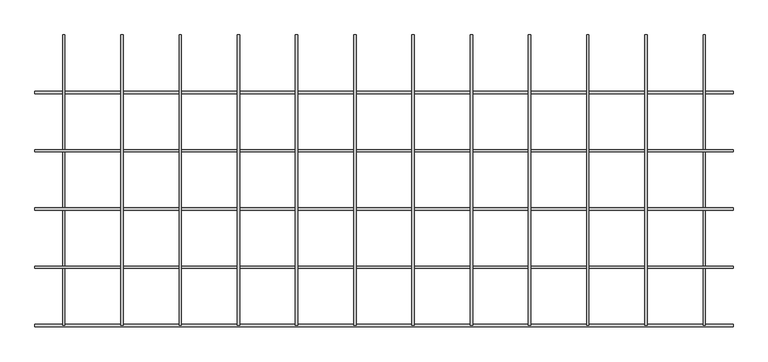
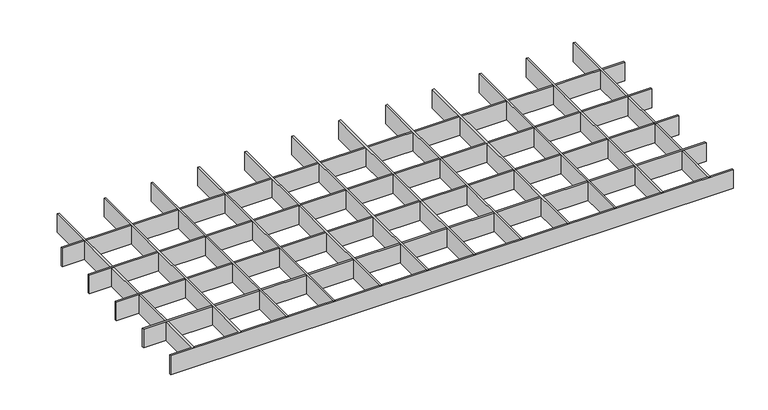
"""IFC4 building model written with IfcOpenShell, lengths in millimetres: proxy geometry, durlum_GEO_panel : durlum_GEO_4_width_cut."""

from ifc_helpers import new_model, si_unit, origin, origin_with_axes, place, context, project, spatial, polyline, outline, extrude, source, transform, mapped, element, save


def generic_models_b706f660(model_context):
    return source(origin(), model_context, "Body", "SweptSolid", [
        extrude(outline(polyline([(448.0, 249.5), (452.0, 249.5), (452.0, -249.5), (448.0, -249.5), (448.0, 249.5)])), origin_with_axes(), (0.0, 0.0, 1.0), 42.0),
        extrude(outline(polyline([(348.0, 249.5), (352.0, 249.5), (352.0, -249.5), (348.0, -249.5), (348.0, 249.5)])), origin_with_axes(), (0.0, 0.0, 1.0), 42.0),
        extrude(outline(polyline([(248.0, 249.5), (252.0, 249.5), (252.0, -249.5), (248.0, -249.5), (248.0, 249.5)])), origin_with_axes(), (0.0, 0.0, 1.0), 42.0),
        extrude(outline(polyline([(148.0, 249.5), (152.0, 249.5), (152.0, -249.5), (148.0, -249.5), (148.0, 249.5)])), origin_with_axes(), (0.0, 0.0, 1.0), 42.0),
        extrude(outline(polyline([(48.0, 249.5), (52.0, 249.5), (52.0, -249.5), (48.0, -249.5), (48.0, 249.5)])), origin_with_axes(), (0.0, 0.0, 1.0), 42.0),
        extrude(outline(polyline([(-52.0, 249.5), (-48.0, 249.5), (-48.0, -249.5), (-52.0, -249.5), (-52.0, 249.5)])), origin_with_axes(), (0.0, 0.0, 1.0), 42.0),
        extrude(outline(polyline([(-152.0, 249.5), (-148.0, 249.5), (-148.0, -249.5), (-152.0, -249.5), (-152.0, 249.5)])), origin_with_axes(), (0.0, 0.0, 1.0), 42.0),
        extrude(outline(polyline([(-252.0, 249.5), (-248.0, 249.5), (-248.0, -249.5), (-252.0, -249.5), (-252.0, 249.5)])), origin_with_axes(), (0.0, 0.0, 1.0), 42.0),
        extrude(outline(polyline([(-352.0, 249.5), (-348.0, 249.5), (-348.0, -249.5), (-352.0, -249.5), (-352.0, 249.5)])), origin_with_axes(), (0.0, 0.0, 1.0), 42.0),
        extrude(outline(polyline([(-452.0, 249.5), (-448.0, 249.5), (-448.0, -249.5), (-452.0, -249.5), (-452.0, 249.5)])), origin_with_axes(), (0.0, 0.0, 1.0), 42.0),
        extrude(outline(polyline([(599.5, -147.5), (599.5, -151.5), (-599.5, -151.5), (-599.5, -147.5), (599.5, -147.5)])), origin_with_axes(), (0.0, 0.0, 1.0), 42.0),
        extrude(outline(polyline([(599.5, -47.5), (599.5, -51.5), (-599.5, -51.5), (-599.5, -47.5), (599.5, -47.5)])), origin_with_axes(), (0.0, 0.0, 1.0), 42.0),
        extrude(outline(polyline([(599.5, 52.5), (599.5, 48.5), (-599.5, 48.5), (-599.5, 52.5), (599.5, 52.5)])), origin_with_axes(), (0.0, 0.0, 1.0), 42.0),
        extrude(outline(polyline([(548.0, 249.5), (552.0, 249.5), (552.0, -249.5), (548.0, -249.5), (548.0, 249.5)])), origin_with_axes(), (0.0, 0.0, 1.0), 42.0),
        extrude(outline(polyline([(-552.0, 249.5), (-548.0, 249.5), (-548.0, -249.5), (-552.0, -249.5), (-552.0, 249.5)])), origin_with_axes(), (0.0, 0.0, 1.0), 42.0),
        extrude(outline(polyline([(599.5, -247.5), (599.5, -251.5), (-599.5, -251.5), (-599.5, -247.5), (599.5, -247.5)])), origin_with_axes(), (0.0, 0.0, 1.0), 42.0),
        extrude(outline(polyline([(599.5, 152.5), (599.5, 148.5), (-599.5, 148.5), (-599.5, 152.5), (599.5, 152.5)])), origin_with_axes(), (0.0, 0.0, 1.0), 42.0),
    ])


if __name__ == "__main__":
    model = new_model("IFC4")
    model_context = context("Model", 3, world=origin())
    ifc_project = project(units=[si_unit("LENGTHUNIT", "METRE", prefix="MILLI")], contexts=[model_context])
    site = spatial("IfcSite", under=ifc_project)
    building = spatial("IfcBuilding", under=site)
    placement = place(None, origin())
    generic_models_shape = generic_models_b706f660(model_context)
    element("IfcBuildingElementProxy", 1, Name="durlum_GEO_panel : durlum_GEO_4_width_cut", ObjectType="durlum_GEO_panel : durlum_GEO_4_width_cut", at=placement, inside=building, context=model_context, shape_type="MappedRepresentation", body=[
        mapped(generic_models_shape, transform((0.0, 0.0, 0.0), x_axis=(1.0, 0.0, 0.0), y_axis=(0.0, 1.0, 0.0), z_axis=(0.0, 0.0, 1.0))),
    ])
    save(model, "model.ifc")
